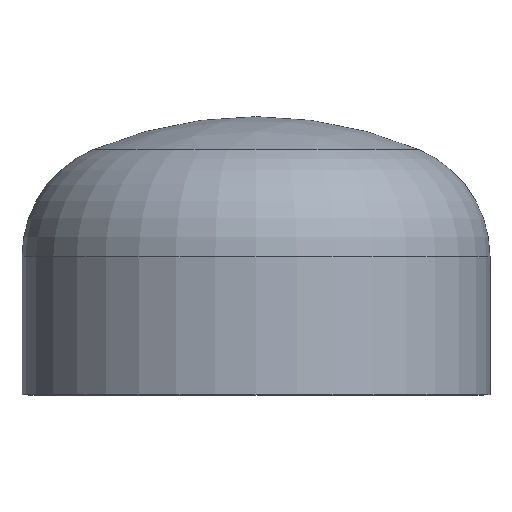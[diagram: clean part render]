
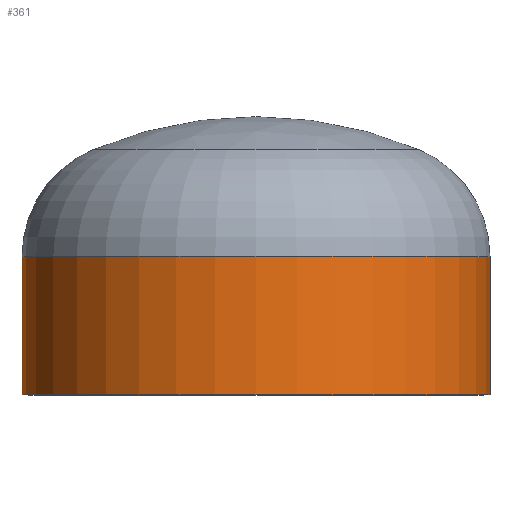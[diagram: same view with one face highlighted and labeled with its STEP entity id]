
A CAD part, top view. The second image highlights one B-rep face of the part: STEP entity #361.
In plain terms, the highlighted cylindrical face has radius 254 mm (diameter 508 mm), a partial arc.
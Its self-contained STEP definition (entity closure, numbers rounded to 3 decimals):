
#2 = AXIS2_PLACEMENT_3D ( 'NONE', #394, #258, #234 ) ;
#18 = EDGE_LOOP ( 'NONE', ( #146, #33, #211, #75 ) ) ;
#22 = DIRECTION ( 'NONE',  ( 0., -1., 0. ) ) ;
#26 = AXIS2_PLACEMENT_3D ( 'NONE', #351, #357, #103 ) ;
#33 = ORIENTED_EDGE ( 'NONE', *, *, #364, .T. ) ;
#44 = VERTEX_POINT ( 'NONE', #148 ) ;
#53 = VERTEX_POINT ( 'NONE', #150 ) ;
#75 = ORIENTED_EDGE ( 'NONE', *, *, #362, .F. ) ;
#77 = VERTEX_POINT ( 'NONE', #277 ) ;
#98 = CIRCLE ( 'NONE', #200, 254. ) ;
#103 = DIRECTION ( 'NONE',  ( 1., 0., 0. ) ) ;
#133 = LINE ( 'NONE', #233, #400 ) ;
#146 = ORIENTED_EDGE ( 'NONE', *, *, #408, .T. ) ;
#148 = CARTESIAN_POINT ( 'NONE',  ( 254., 0., 0. ) ) ;
#150 = CARTESIAN_POINT ( 'NONE',  ( 254., 150., 0. ) ) ;
#166 = CARTESIAN_POINT ( 'NONE',  ( -254., 150., 0. ) ) ;
#169 = CARTESIAN_POINT ( 'NONE',  ( -254., 0., 0. ) ) ;
#200 = AXIS2_PLACEMENT_3D ( 'NONE', #375, #236, #397 ) ;
#211 = ORIENTED_EDGE ( 'NONE', *, *, #363, .F. ) ;
#233 = CARTESIAN_POINT ( 'NONE',  ( 254., 0., 0. ) ) ;
#234 = DIRECTION ( 'NONE',  ( 1., 0., 0. ) ) ;
#236 = DIRECTION ( 'NONE',  ( 0., -1., 0. ) ) ;
#258 = DIRECTION ( 'NONE',  ( 0., -1., 0. ) ) ;
#277 = CARTESIAN_POINT ( 'NONE',  ( -254., 0., 0. ) ) ;
#280 = CYLINDRICAL_SURFACE ( 'NONE', #2, 254. ) ;
#287 = VERTEX_POINT ( 'NONE', #166 ) ;
#291 = LINE ( 'NONE', #169, #390 ) ;
#343 = CIRCLE ( 'NONE', #26, 254. ) ;
#346 = FACE_OUTER_BOUND ( 'NONE', #18, .T. ) ;
#350 = DIRECTION ( 'NONE',  ( 0., -1., 0. ) ) ;
#351 = CARTESIAN_POINT ( 'NONE',  ( 0., 0., 0. ) ) ;
#357 = DIRECTION ( 'NONE',  ( 0., -1., 0. ) ) ;
#361 = ADVANCED_FACE ( 'NONE', ( #346 ), #280, .T. ) ;
#362 = EDGE_CURVE ( 'NONE', #53, #44, #133, .T. ) ;
#363 = EDGE_CURVE ( 'NONE', #44, #77, #343, .T. ) ;
#364 = EDGE_CURVE ( 'NONE', #287, #77, #291, .T. ) ;
#375 = CARTESIAN_POINT ( 'NONE',  ( 0., 150., 0. ) ) ;
#390 = VECTOR ( 'NONE', #350, 1000. ) ;
#394 = CARTESIAN_POINT ( 'NONE',  ( 0., 0., 0. ) ) ;
#397 = DIRECTION ( 'NONE',  ( 1., 0., 0. ) ) ;
#400 = VECTOR ( 'NONE', #22, 1000. ) ;
#408 = EDGE_CURVE ( 'NONE', #53, #287, #98, .T. ) ;
